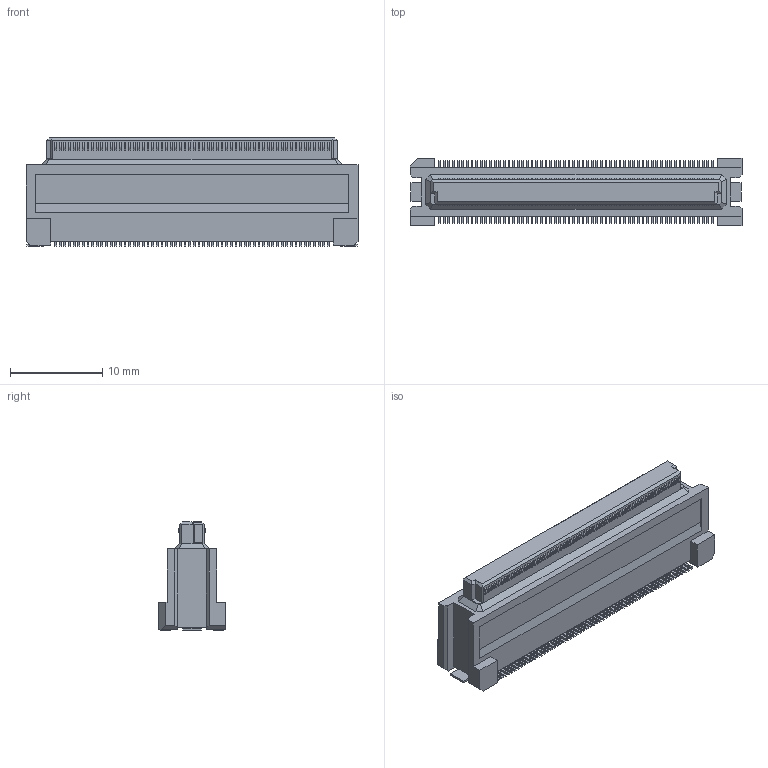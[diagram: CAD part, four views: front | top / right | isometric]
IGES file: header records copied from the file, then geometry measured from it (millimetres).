
Start section: Elysium IGES Interface
Global section: file name: C:\Users\1354\Desktop\DY10-120FS-3.igs; native system: Creo Elements/Direct Modeling 19.0F  14-Feb-2017; preprocessor: Creo Element/Direct IGES_3D V2.2; author: Unknown; organization: Unknown; date: 20171128.093755; units: millimetre
Bounding box: 35.9 x 7.3 x 11.73 mm (x, y, z)
Volume: 1658.1 mm3; surface area: 1553.8 mm2
Topology: 1 solids, 1 shells, 1710 faces, 4713 edges, 3130 vertices
Faces by surface type: bspline 1710
